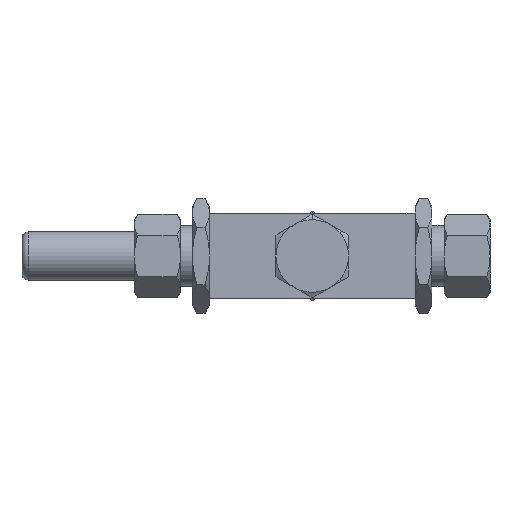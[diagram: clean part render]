
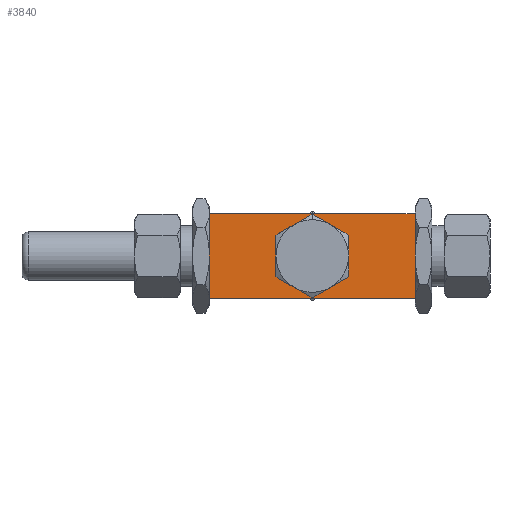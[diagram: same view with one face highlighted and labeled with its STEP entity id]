
A CAD part, front view. The second image highlights one B-rep face of the part: STEP entity #3840.
In plain terms, the highlighted planar face has unit normal (0, -1, 0).
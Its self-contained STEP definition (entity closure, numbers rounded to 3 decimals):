
#44 = CARTESIAN_POINT ( 'NONE',  ( -7.5, -32.5, 12.99 ) ) ;
#48 = CIRCLE ( 'NONE', #3010, 15. ) ;
#131 = ORIENTED_EDGE ( 'NONE', *, *, #5139, .F. ) ;
#215 = DIRECTION ( 'NONE',  ( 1., 0., 0. ) ) ;
#286 = FACE_OUTER_BOUND ( 'NONE', #3487, .T. ) ;
#480 = ORIENTED_EDGE ( 'NONE', *, *, #1716, .F. ) ;
#485 = CARTESIAN_POINT ( 'NONE',  ( 0., -32.5, 0. ) ) ;
#533 = VERTEX_POINT ( 'NONE', #2732 ) ;
#553 = DIRECTION ( 'NONE',  ( 0., 0., -1. ) ) ;
#558 = CARTESIAN_POINT ( 'NONE',  ( 15., -32.5, 0. ) ) ;
#723 = ORIENTED_EDGE ( 'NONE', *, *, #2297, .F. ) ;
#768 = LINE ( 'NONE', #5772, #1878 ) ;
#816 = ORIENTED_EDGE ( 'NONE', *, *, #866, .T. ) ;
#830 = ORIENTED_EDGE ( 'NONE', *, *, #5047, .F. ) ;
#840 = LINE ( 'NONE', #4351, #4530 ) ;
#842 = ORIENTED_EDGE ( 'NONE', *, *, #3852, .F. ) ;
#866 = EDGE_CURVE ( 'NONE', #3392, #3287, #768, .T. ) ;
#901 = CARTESIAN_POINT ( 'NONE',  ( 42.5, -32.5, 17.5 ) ) ;
#1034 = ORIENTED_EDGE ( 'NONE', *, *, #2021, .F. ) ;
#1066 = AXIS2_PLACEMENT_3D ( 'NONE', #4360, #2288, #4330 ) ;
#1108 = DIRECTION ( 'NONE',  ( 0., -1., 0. ) ) ;
#1297 = CARTESIAN_POINT ( 'NONE',  ( -42.5, -32.5, 17.5 ) ) ;
#1351 = AXIS2_PLACEMENT_3D ( 'NONE', #2597, #5596, #4659 ) ;
#1404 = DIRECTION ( 'NONE',  ( 0., 0., 1. ) ) ;
#1477 = ORIENTED_EDGE ( 'NONE', *, *, #2914, .F. ) ;
#1654 = CARTESIAN_POINT ( 'NONE',  ( 42.5, -32.5, -17.5 ) ) ;
#1716 = EDGE_CURVE ( 'NONE', #1865, #3287, #840, .T. ) ;
#1758 = AXIS2_PLACEMENT_3D ( 'NONE', #485, #1108, #3139 ) ;
#1806 = DIRECTION ( 'NONE',  ( 0., 0., -1. ) ) ;
#1865 = VERTEX_POINT ( 'NONE', #901 ) ;
#1878 = VECTOR ( 'NONE', #215, 1000. ) ;
#2021 = EDGE_CURVE ( 'NONE', #5310, #2558, #48, .T. ) ;
#2051 = VERTEX_POINT ( 'NONE', #4306 ) ;
#2242 = CARTESIAN_POINT ( 'NONE',  ( -42.5, -32.5, -17.5 ) ) ;
#2288 = DIRECTION ( 'NONE',  ( 0., -1., 0. ) ) ;
#2297 = EDGE_CURVE ( 'NONE', #5325, #1865, #3479, .T. ) ;
#2413 = CIRCLE ( 'NONE', #2534, 15. ) ;
#2431 = PLANE ( 'NONE',  #2641 ) ;
#2467 = CARTESIAN_POINT ( 'NONE',  ( -7.5, -32.5, -12.99 ) ) ;
#2534 = AXIS2_PLACEMENT_3D ( 'NONE', #5236, #6357, #1806 ) ;
#2557 = DIRECTION ( 'NONE',  ( 0., -1., 0. ) ) ;
#2558 = VERTEX_POINT ( 'NONE', #558 ) ;
#2597 = CARTESIAN_POINT ( 'NONE',  ( 0., -32.5, 0. ) ) ;
#2641 = AXIS2_PLACEMENT_3D ( 'NONE', #6345, #3835, #1404 ) ;
#2724 = VERTEX_POINT ( 'NONE', #3863 ) ;
#2732 = CARTESIAN_POINT ( 'NONE',  ( 7.5, -32.5, 12.99 ) ) ;
#2910 = EDGE_CURVE ( 'NONE', #2051, #4992, #5703, .T. ) ;
#2911 = DIRECTION ( 'NONE',  ( 0., 0., -1. ) ) ;
#2914 = EDGE_CURVE ( 'NONE', #4992, #2724, #4317, .T. ) ;
#3010 = AXIS2_PLACEMENT_3D ( 'NONE', #4897, #4931, #2911 ) ;
#3025 = VECTOR ( 'NONE', #4150, 1000. ) ;
#3139 = DIRECTION ( 'NONE',  ( 0., 0., -1. ) ) ;
#3253 = AXIS2_PLACEMENT_3D ( 'NONE', #3463, #4462, #6465 ) ;
#3287 = VERTEX_POINT ( 'NONE', #1654 ) ;
#3392 = VERTEX_POINT ( 'NONE', #2242 ) ;
#3398 = CARTESIAN_POINT ( 'NONE',  ( 7.5, -32.5, -12.99 ) ) ;
#3459 = DIRECTION ( 'NONE',  ( 0., 0., -1. ) ) ;
#3463 = CARTESIAN_POINT ( 'NONE',  ( 0., -32.5, 0. ) ) ;
#3479 = LINE ( 'NONE', #5503, #3025 ) ;
#3487 = EDGE_LOOP ( 'NONE', ( #816, #480, #723, #3585 ) ) ;
#3585 = ORIENTED_EDGE ( 'NONE', *, *, #5348, .T. ) ;
#3804 = ORIENTED_EDGE ( 'NONE', *, *, #4468, .F. ) ;
#3835 = DIRECTION ( 'NONE',  ( 0., 1., 0. ) ) ;
#3840 = ADVANCED_FACE ( 'NONE', ( #286, #4851 ), #2431, .F. ) ;
#3852 = EDGE_CURVE ( 'NONE', #2558, #533, #3916, .T. ) ;
#3863 = CARTESIAN_POINT ( 'NONE',  ( 0., -32.5, -15. ) ) ;
#3916 = CIRCLE ( 'NONE', #1066, 15. ) ;
#4119 = AXIS2_PLACEMENT_3D ( 'NONE', #4590, #2557, #553 ) ;
#4121 = CIRCLE ( 'NONE', #1758, 15. ) ;
#4150 = DIRECTION ( 'NONE',  ( 1., 0., 0. ) ) ;
#4305 = VERTEX_POINT ( 'NONE', #44 ) ;
#4306 = CARTESIAN_POINT ( 'NONE',  ( -15., -32.5, 0. ) ) ;
#4317 = CIRCLE ( 'NONE', #4119, 15. ) ;
#4330 = DIRECTION ( 'NONE',  ( 0., 0., -1. ) ) ;
#4351 = CARTESIAN_POINT ( 'NONE',  ( 42.5, -32.5, 17.5 ) ) ;
#4360 = CARTESIAN_POINT ( 'NONE',  ( 0., -32.5, 0. ) ) ;
#4462 = DIRECTION ( 'NONE',  ( 0., -1., 0. ) ) ;
#4468 = EDGE_CURVE ( 'NONE', #4305, #2051, #2413, .T. ) ;
#4530 = VECTOR ( 'NONE', #5868, 1000. ) ;
#4590 = CARTESIAN_POINT ( 'NONE',  ( 0., -32.5, 0. ) ) ;
#4635 = CIRCLE ( 'NONE', #1351, 15. ) ;
#4659 = DIRECTION ( 'NONE',  ( 0., 0., -1. ) ) ;
#4805 = EDGE_LOOP ( 'NONE', ( #830, #842, #1034, #131, #1477, #5502, #3804 ) ) ;
#4851 = FACE_BOUND ( 'NONE', #4805, .T. ) ;
#4897 = CARTESIAN_POINT ( 'NONE',  ( 0., -32.5, 0. ) ) ;
#4931 = DIRECTION ( 'NONE',  ( 0., -1., 0. ) ) ;
#4981 = LINE ( 'NONE', #1297, #5274 ) ;
#4992 = VERTEX_POINT ( 'NONE', #2467 ) ;
#5047 = EDGE_CURVE ( 'NONE', #533, #4305, #4635, .T. ) ;
#5139 = EDGE_CURVE ( 'NONE', #2724, #5310, #4121, .T. ) ;
#5236 = CARTESIAN_POINT ( 'NONE',  ( 0., -32.5, 0. ) ) ;
#5274 = VECTOR ( 'NONE', #3459, 1000. ) ;
#5310 = VERTEX_POINT ( 'NONE', #3398 ) ;
#5325 = VERTEX_POINT ( 'NONE', #5844 ) ;
#5348 = EDGE_CURVE ( 'NONE', #5325, #3392, #4981, .T. ) ;
#5502 = ORIENTED_EDGE ( 'NONE', *, *, #2910, .F. ) ;
#5503 = CARTESIAN_POINT ( 'NONE',  ( -42.5, -32.5, 17.5 ) ) ;
#5596 = DIRECTION ( 'NONE',  ( 0., -1., 0. ) ) ;
#5703 = CIRCLE ( 'NONE', #3253, 15. ) ;
#5772 = CARTESIAN_POINT ( 'NONE',  ( -42.5, -32.5, -17.5 ) ) ;
#5844 = CARTESIAN_POINT ( 'NONE',  ( -42.5, -32.5, 17.5 ) ) ;
#5868 = DIRECTION ( 'NONE',  ( 0., 0., -1. ) ) ;
#6345 = CARTESIAN_POINT ( 'NONE',  ( -42.5, -32.5, 17.5 ) ) ;
#6357 = DIRECTION ( 'NONE',  ( 0., -1., 0. ) ) ;
#6465 = DIRECTION ( 'NONE',  ( 0., 0., -1. ) ) ;
